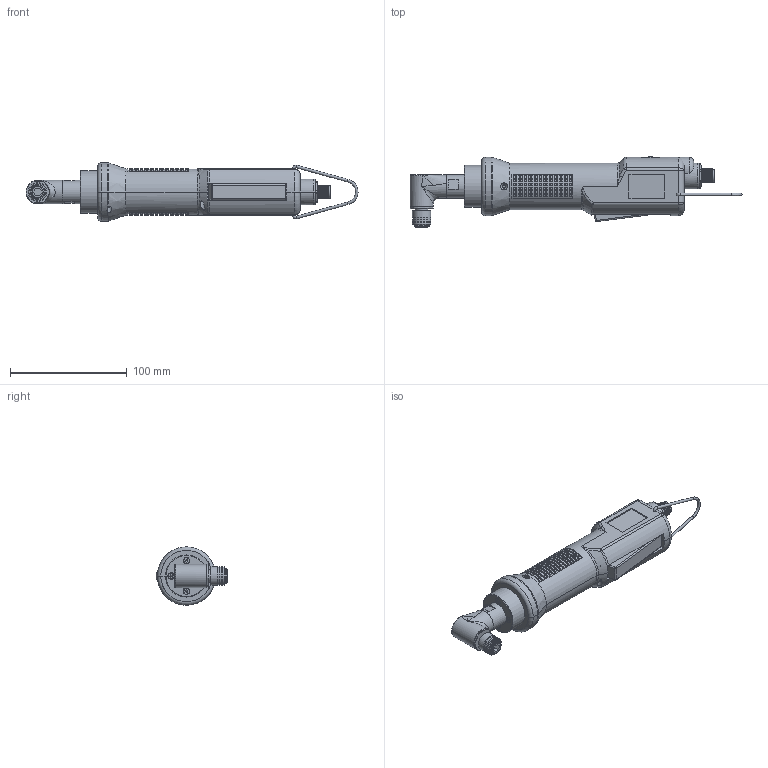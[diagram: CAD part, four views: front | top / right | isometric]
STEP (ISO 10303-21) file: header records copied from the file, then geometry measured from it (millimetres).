
FILE_DESCRIPTION (( 'STEP AP214' ), '1' );
FILE_NAME ('Pluto 3-6-10TA.STEP', '2025-09-23T13:54:54', ( '' ), ( '' ), 'SwSTEP 2.0', 'SolidWorks 2024', '' );
FILE_SCHEMA (( 'AUTOMOTIVE_DESIGN' ));
Length unit declared in the file: millimetre
Products named in the file (1): Pluto 3-6-10TA
Bounding box: 284.5 x 61.32 x 50 mm (x, y, z)
Volume: 136784.6 mm3; surface area: 88045.5 mm2
Topology: 40 solids, 40 shells, 2546 faces, 5934 edges, 3644 vertices
Faces by surface type: plane 1261, cylinder 635, cone 342, torus 158, bspline 132, sphere 18
Full cylindrical faces by diameter (mm): 0.475 x4, 0.8 x1, 1 x8, 1.68 x72, 2.2 x71, 2.237 x1, 2.5 x1, 2.8 x2, 3 x70, 3.2 x8, 3.4 x2, 4 x8, 5.5 x4, 5.7 x4, 6 x2, 7.5 x1, 8.3 x1, 9.4 x1, 9.5 x1, 10.1 x1, 10.5 x1, 10.6 x1, 10.8 x1, 11.3 x1, 12 x1, 12.5 x1, 12.9 x1, 13 x7, 15.4 x2, 15.5 x1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
Entity records: 116875 total; most frequent: CARTESIAN_POINT 34050, DIRECTION 11502, ORIENTED_EDGE 10114, EDGE_CURVE 5057, AXIS2_PLACEMENT_3D 4489, VERTEX_POINT 3552, EDGE_LOOP 3549, FACE_OUTER_BOUND 2944
